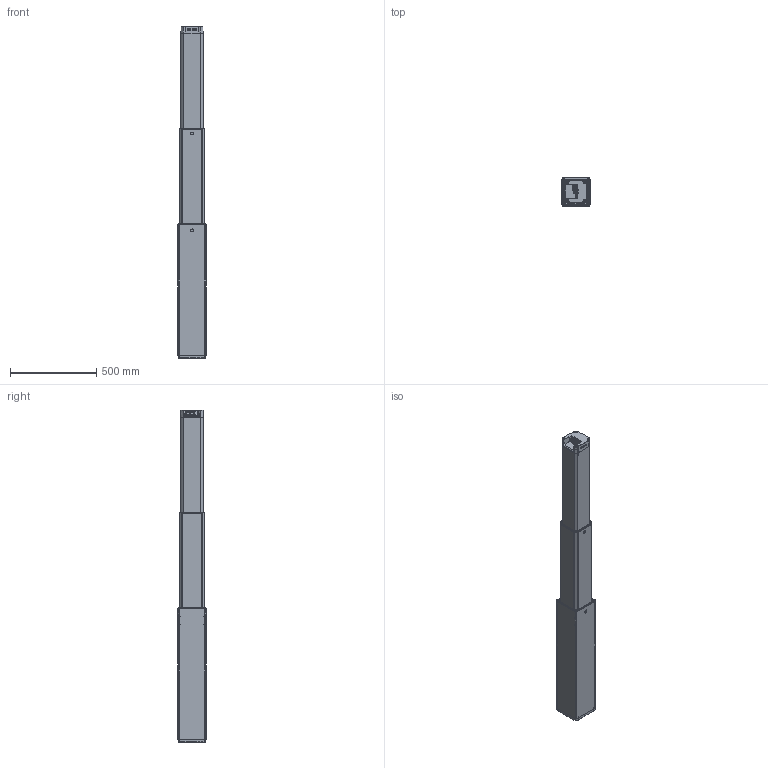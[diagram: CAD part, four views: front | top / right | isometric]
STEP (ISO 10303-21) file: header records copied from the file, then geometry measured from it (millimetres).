
FILE_DESCRIPTION((''),'2;1');
FILE_NAME('ELEVATE1100OUT_ASM','2025-02-10T13:28:10',('maho'),(''),'CREO PARAMETRIC BY PTC INC, 2022024','CREO PARAMETRIC BY PTC INC, 2022024','');
FILE_SCHEMA(('AUTOMOTIVE_DESIGN { 1 0 10303 214 1 1 1 1 }'));
Products named in the file (17): 0002601_1_1; 1002W4025_ASM_1_1_ASM; 0002002_1_1; 1002W4019_ASM_1_1_ASM; 1002W4003__1_1; 1002W4004__1_1; 1002W4005__1_1; 1002W4006_1_1; 1002W4007_1_1; 1002W4012_1_1; TEC-0003335_1_1; TEC-0001926_1_1; 1002W1392_1_1; TEC-0001888_ASM_1_1_ASM; PRT0001; 0002068; ELEVATE1100OUT_ASM
Assembly tree (40 placements, depth 4):
  ELEVATE1100OUT_ASM
    TEC-0001888_ASM_1_1_ASM
      1002W4025_ASM_1_1_ASM
        0002601_1_1  x6
      1002W4019_ASM_1_1_ASM
        0002002_1_1  x6
        0002601_1_1  x12
      1002W4003__1_1
      1002W4004__1_1
      1002W4005__1_1
      1002W4006_1_1
      1002W4007_1_1
      1002W4012_1_1
      TEC-0003335_1_1
      TEC-0001926_1_1
      1002W1392_1_1
    PRT0001  x2
    0002068  x2
Bounding box: 163 x 163 x 1930 mm (x, y, z)
Volume: 48256018.1 mm3; surface area: 1922332.1 mm2
Topology: 37 solids, 38 shells, 2461 faces, 6871 edges, 4489 vertices
Faces by surface type: cylinder 1093, plane 596, cone 320, torus 219, bspline 181, sphere 46, extrusion 6
Entity records: 69822 total; most frequent: CARTESIAN_POINT 22586, DIRECTION 9428, ORIENTED_EDGE 9116, EDGE_CURVE 4558, AXIS2_PLACEMENT_3D 3828, VERTEX_POINT 2975, CIRCLE 2180, EDGE_LOOP 1805
